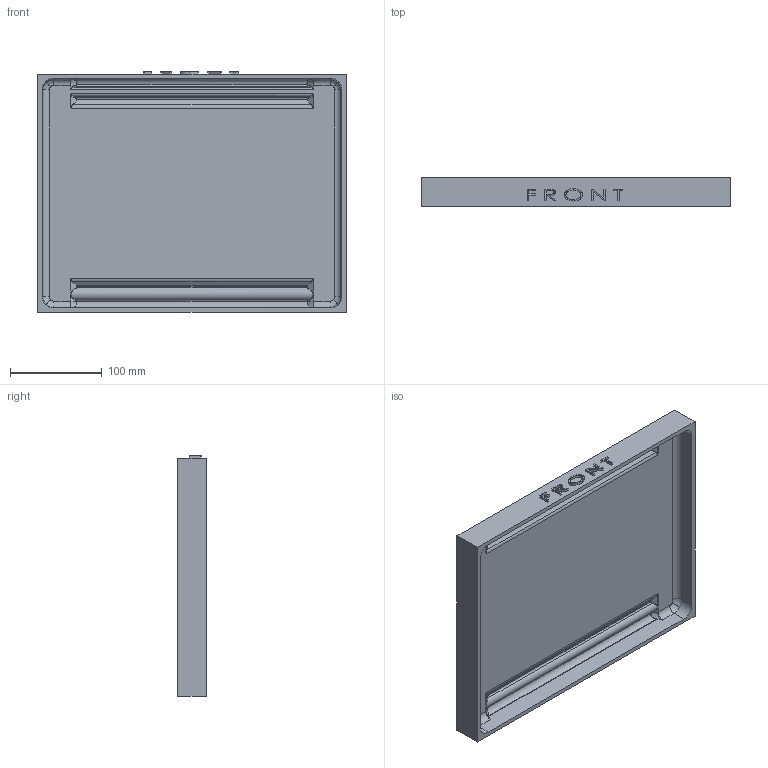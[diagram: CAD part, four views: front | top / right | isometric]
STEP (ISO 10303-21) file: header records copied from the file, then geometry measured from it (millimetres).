
FILE_DESCRIPTION (( 'STEP AP203' ), '1' );
FILE_NAME ('1080_CASE_TOP.STEP', '2007-03-19T21:51:47', ( ' ' ), ( ' ' ), 'SwSTEP 2.0', 'SolidWorks 2006233', '' );
FILE_SCHEMA (( 'CONFIG_CONTROL_DESIGN' ));
Length unit declared in the file: inch
Products named in the file (1): 1080_CASE_TOP
Bounding box: 336.17 x 31.05 x 262.51 mm (x, y, z)
Volume: 917546.7 mm3; surface area: 238537.8 mm2
Topology: 1 solids, 1 shells, 209 faces, 522 edges, 304 vertices
Faces by surface type: bspline 95, plane 70, cylinder 44
Entity records: 8965 total; most frequent: CARTESIAN_POINT 4872, ORIENTED_EDGE 1004, DIRECTION 598, EDGE_CURVE 502, VERTEX_POINT 304, VECTOR 226, LINE 226, EDGE_LOOP 218
